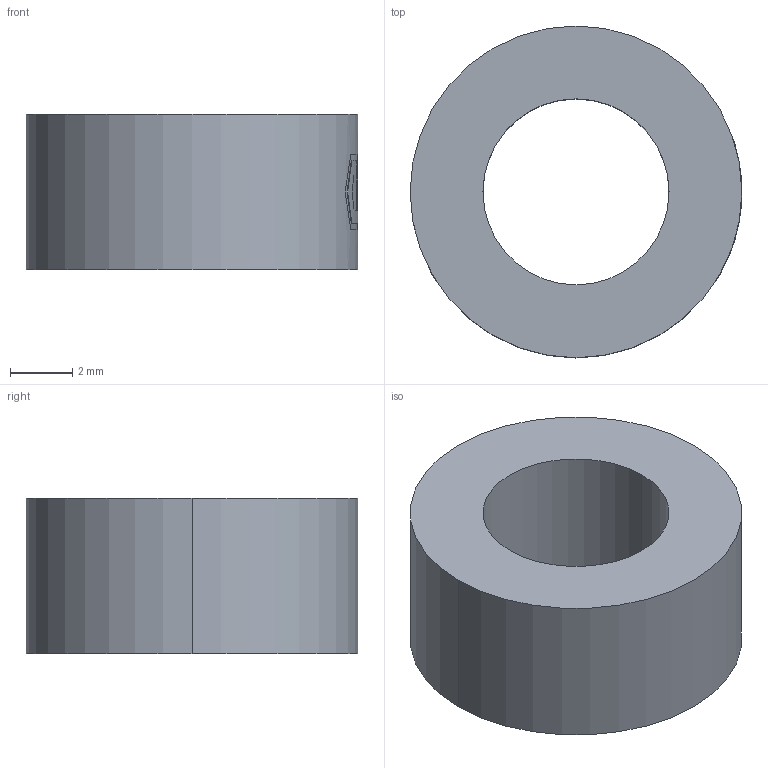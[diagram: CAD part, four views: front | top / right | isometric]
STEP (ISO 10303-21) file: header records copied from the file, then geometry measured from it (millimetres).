
FILE_DESCRIPTION (( 'STEP AP203' ), '1' );
FILE_NAME ('307-6 NEO.STEP', '2007-02-26T07:34:37', ( ' ' ), ( '' ), 'SwSTEP 2.0', 'SolidWorks 2005278', '' );
FILE_SCHEMA (( 'CONFIG_CONTROL_DESIGN' ));
Length unit declared in the file: millimetre
Products named in the file (1): 307-6 NEO
Bounding box: 10.7 x 10.7 x 5 mm (x, y, z)
Volume: 308.1 mm3; surface area: 386.3 mm2
Topology: 1 solids, 1 shells, 43 faces, 117 edges, 78 vertices
Faces by surface type: plane 36, cylinder 7
Entity records: 1468 total; most frequent: CARTESIAN_POINT 299, ORIENTED_EDGE 234, DIRECTION 221, EDGE_CURVE 117, AXIS2_PLACEMENT_3D 80, VERTEX_POINT 78, VECTOR 61, LINE 61
